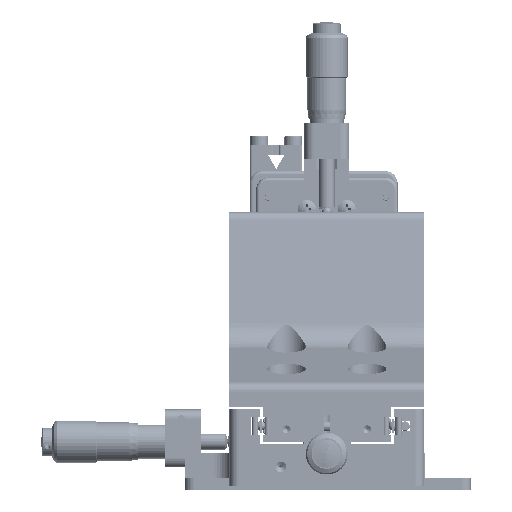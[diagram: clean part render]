
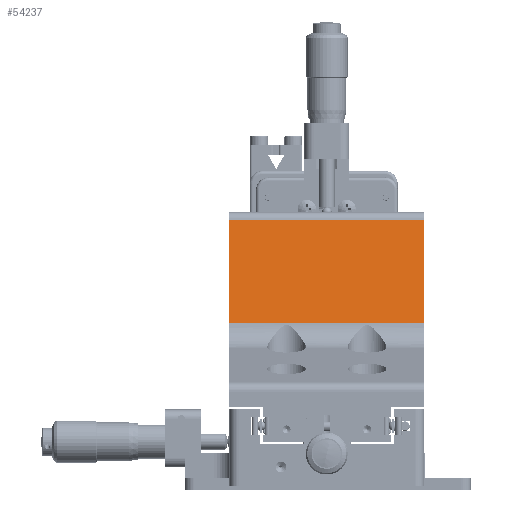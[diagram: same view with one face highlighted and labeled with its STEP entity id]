
A CAD part, front view. The second image highlights one B-rep face of the part: STEP entity #54237.
In plain terms, the highlighted planar face has unit normal (0, -0.985, 0.174).
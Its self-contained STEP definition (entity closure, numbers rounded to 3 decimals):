
#2045 = DIRECTION ( 'NONE',  ( 0., 0.174, 0.985 ) ) ;
#5624 = CARTESIAN_POINT ( 'NONE',  ( 29.925, 24.506, 86.3 ) ) ;
#6927 = ORIENTED_EDGE ( 'NONE', *, *, #14796, .F. ) ;
#7445 = ORIENTED_EDGE ( 'NONE', *, *, #78221, .T. ) ;
#14796 = EDGE_CURVE ( 'NONE', #79208, #18980, #108286, .T. ) ;
#18063 = LINE ( 'NONE', #99510, #52355 ) ;
#18980 = VERTEX_POINT ( 'NONE', #120199 ) ;
#20091 = LINE ( 'NONE', #46440, #88583 ) ;
#27870 = FACE_OUTER_BOUND ( 'NONE', #130006, .T. ) ;
#28585 = VERTEX_POINT ( 'NONE', #58547 ) ;
#32000 = EDGE_CURVE ( 'NONE', #79208, #32578, #18063, .T. ) ;
#32336 = CARTESIAN_POINT ( 'NONE',  ( -30.575, 24.506, 86.3 ) ) ;
#32578 = VERTEX_POINT ( 'NONE', #98006 ) ;
#35536 = DIRECTION ( 'NONE',  ( 0., 0.985, -0.174 ) ) ;
#46440 = CARTESIAN_POINT ( 'NONE',  ( 29.925, 18.438, 51.889 ) ) ;
#52355 = VECTOR ( 'NONE', #89038, 1000. ) ;
#53527 = VECTOR ( 'NONE', #125102, 1000. ) ;
#54237 = ADVANCED_FACE ( 'NONE', ( #27870 ), #99156, .F. ) ;
#58547 = CARTESIAN_POINT ( 'NONE',  ( -30.575, 18.438, 51.889 ) ) ;
#60107 = EDGE_CURVE ( 'NONE', #28585, #18980, #20091, .T. ) ;
#68449 = DIRECTION ( 'NONE',  ( 1., 0., 0. ) ) ;
#74769 = VECTOR ( 'NONE', #78727, 1000. ) ;
#78221 = EDGE_CURVE ( 'NONE', #32578, #28585, #103801, .T. ) ;
#78727 = DIRECTION ( 'NONE',  ( 0., -0.174, -0.985 ) ) ;
#79208 = VERTEX_POINT ( 'NONE', #88584 ) ;
#88583 = VECTOR ( 'NONE', #68449, 1000. ) ;
#88584 = CARTESIAN_POINT ( 'NONE',  ( 29.925, 24.069, 83.821 ) ) ;
#89038 = DIRECTION ( 'NONE',  ( -1., 0., 0. ) ) ;
#98006 = CARTESIAN_POINT ( 'NONE',  ( -30.575, 24.069, 83.821 ) ) ;
#99156 = PLANE ( 'NONE',  #116752 ) ;
#99510 = CARTESIAN_POINT ( 'NONE',  ( 29.925, 24.069, 83.821 ) ) ;
#103801 = LINE ( 'NONE', #32336, #74769 ) ;
#108286 = LINE ( 'NONE', #5624, #53527 ) ;
#109451 = ORIENTED_EDGE ( 'NONE', *, *, #60107, .T. ) ;
#116752 = AXIS2_PLACEMENT_3D ( 'NONE', #132952, #35536, #2045 ) ;
#120199 = CARTESIAN_POINT ( 'NONE',  ( 29.925, 18.438, 51.889 ) ) ;
#125102 = DIRECTION ( 'NONE',  ( 0., -0.174, -0.985 ) ) ;
#130006 = EDGE_LOOP ( 'NONE', ( #6927, #133675, #7445, #109451 ) ) ;
#132952 = CARTESIAN_POINT ( 'NONE',  ( 29.925, 24.506, 86.3 ) ) ;
#133675 = ORIENTED_EDGE ( 'NONE', *, *, #32000, .T. ) ;
